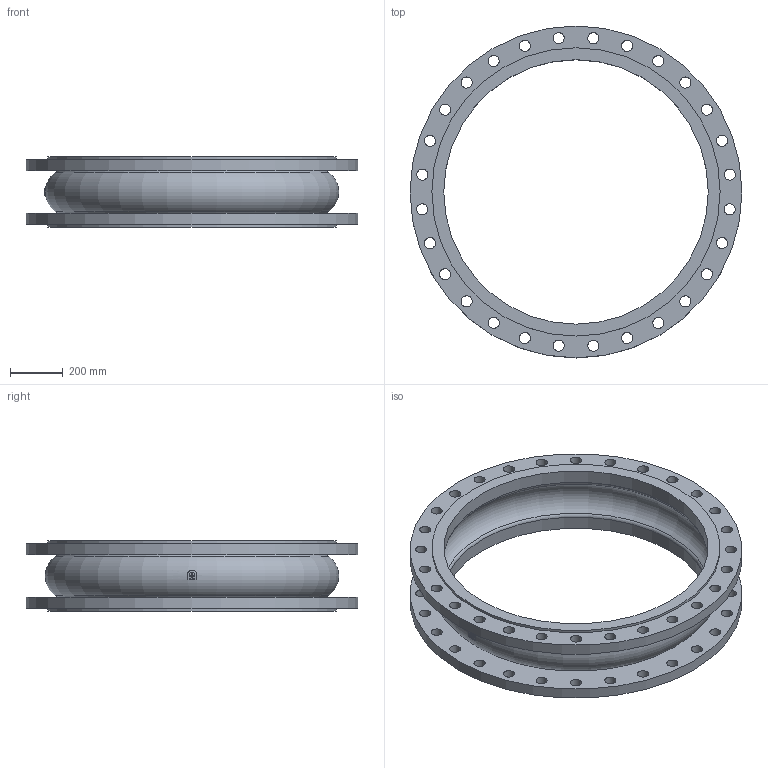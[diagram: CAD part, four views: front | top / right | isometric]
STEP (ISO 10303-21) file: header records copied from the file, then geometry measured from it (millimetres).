
FILE_DESCRIPTION(('STEP AP203'), '1');
FILE_NAME('Êîìïåíñàòîð KMS DN1000 PN16', '', ('UNSPECIFIED'), ('UNSPECIFIED'), 'ASCON STEP Converter 1.6', 'ASCON Math Kernel', '');
FILE_SCHEMA(('CONFIG_CONTROL_DESIGN'));
Length unit declared in the file: millimetre
Bounding box: 1255 x 1255 x 265 mm (x, y, z)
Volume: 44100553.3 mm3; surface area: 3913348.3 mm2
Topology: 1 solids, 1 shells, 91 faces, 240 edges, 158 vertices
Faces by surface type: cylinder 69, plane 13, torus 9
Full cylindrical faces by diameter (mm): 42 x56, 1000 x2, 1090 x2, 1255 x2
Entity records: 4554 total; most frequent: CARTESIAN_POINT 1487, DIRECTION 470, ORIENTED_EDGE 344, EDGE_LOOP 280, AXIS2_PLACEMENT_3D 228, EDGE_CURVE 172, VERTEX_POINT 158, FACE_BOUND 144
